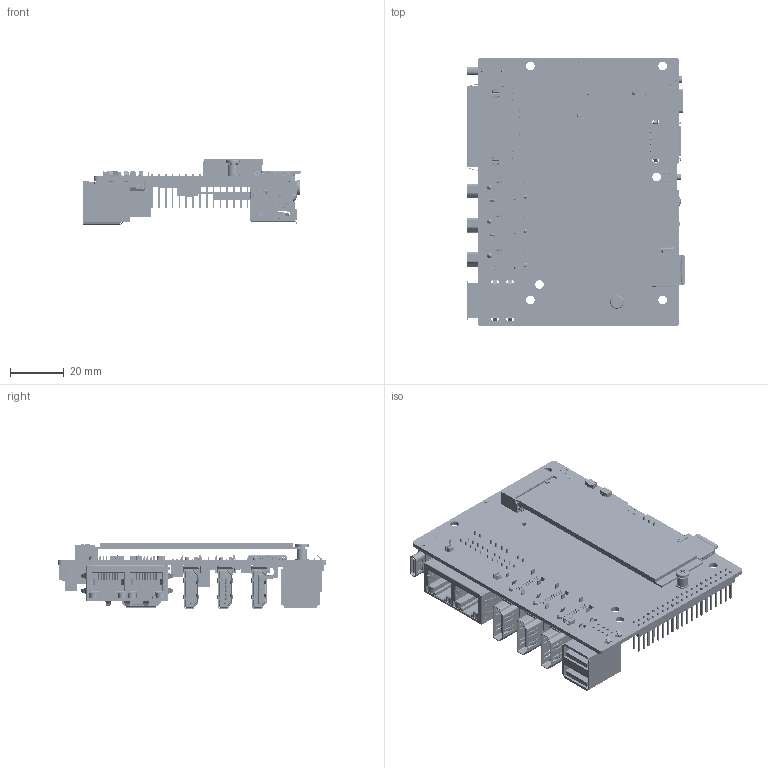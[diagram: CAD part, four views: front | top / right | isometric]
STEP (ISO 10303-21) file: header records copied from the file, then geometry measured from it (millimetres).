
FILE_DESCRIPTION((''),'2;1');
FILE_NAME('00_PI_MINI_PC_ASM','2023-07-18T17:48:51',('orangepi'),(''),'CREO PARAMETRIC BY PTC INC, 2022073','CREO PARAMETRIC BY PTC INC, 2022073','');
FILE_SCHEMA(('CONFIG_CONTROL_DESIGN'));
Products named in the file (40): PI_MINI_PC_MAIN_PCB; TOP; SWITCH; SSD_CON; F-2; H; T1_2; WTB-2P_ASM; 2P_ASM; 40PIN_CONN; LED; IR; S15200B20T04; TYPE_C_CC; PRT0004; USB3_00001; MR01A-01224; 03_11_05_0010_USB_0001; 03_11_06_0002PJ-350001; DGKYD312Q070DE3A4DYT; M2-67P-M_KEY5_8H; M2-67P-E_KEY5_8H; WIFI_BT; 818000500-TYPE4_1; WLDM-094F_1_1_1; WLDM-094F_1_2_1; WLDM-094F_1_ASM_1_ASM; WLDM-094A_ASM_1_ASM; WLDM-094A_ASM; PI_MINI_PC_MAIN_PCB_ASM; PI_MINI_PC_CABLE; 818000501-3D-1_SUM_1; PI_MINI_PC_CABLE_ASM; SSD_2280; MIC5025; M20; EMMC; PI_MINI_PC_PCBA_ASM; CAM5M_ASM; 00_PI_MINI_PC_ASM
Assembly tree (51 placements, depth 7):
  00_PI_MINI_PC_ASM
    PI_MINI_PC_PCBA_ASM
      PI_MINI_PC_MAIN_PCB_ASM
        PI_MINI_PC_MAIN_PCB
        TOP
        SWITCH  x2
        SSD_CON  x2
        2P_ASM  x3
          WTB-2P_ASM
            F-2  x2
            H
            T1_2  x2
        40PIN_CONN
        LED
        IR
        S15200B20T04  x2
        TYPE_C_CC
        PRT0004
        USB3_00001
        MR01A-01224
        03_11_05_0010_USB_0001
        03_11_06_0002PJ-350001
        DGKYD312Q070DE3A4DYT
        M2-67P-M_KEY5_8H
        M2-67P-E_KEY5_8H
        WIFI_BT
        818000500-TYPE4_1  x2
        WLDM-094A_ASM  x3
          WLDM-094A_ASM_1_ASM
            WLDM-094F_1_ASM_1_ASM
              WLDM-094F_1_1_1
              WLDM-094F_1_2_1
      PI_MINI_PC_CABLE_ASM
        PI_MINI_PC_CABLE
        818000501-3D-1_SUM_1  x2
      SSD_2280
      MIC5025
      M20  x2
      EMMC
    CAM5M_ASM
Bounding box: 81.4 x 100 x 24.44 mm (x, y, z)
Volume: 36821.9 mm3; surface area: 60614.1 mm2
Topology: 50 solids, 107 shells, 21515 faces, 59912 edges, 38917 vertices
Faces by surface type: plane 15643, cylinder 4827, bspline 439, extrusion 190, torus 168, cone 157, sphere 88, revolution 3
Entity records: 556374 total; most frequent: CARTESIAN_POINT 123871, ORIENTED_EDGE 92670, DIRECTION 85938, EDGE_CURVE 46429, VECTOR 36583, LINE 36437, VERTEX_POINT 30227, AXIS2_PLACEMENT_3D 24676
